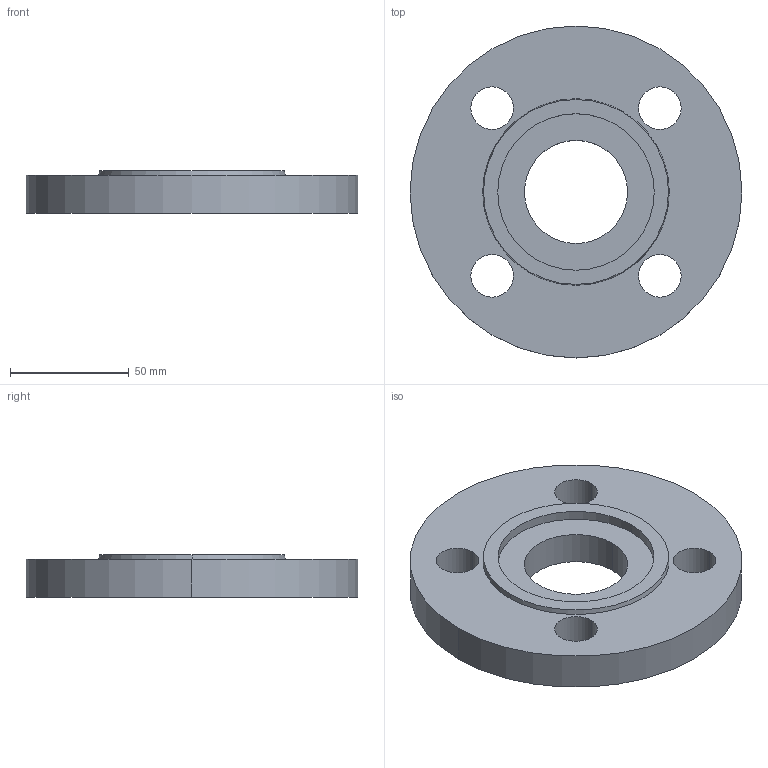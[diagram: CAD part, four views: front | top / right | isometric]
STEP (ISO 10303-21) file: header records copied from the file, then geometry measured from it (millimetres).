
FILE_DESCRIPTION (( 'STEP AP214' ), '1' );
FILE_NAME ('PN40 DN32 Type 01 - Type F Face.STEP', '2018-12-30T00:09:14', ( '' ), ( '' ), 'SwSTEP 2.0', 'SolidWorks 2019', '' );
FILE_SCHEMA (( 'AUTOMOTIVE_DESIGN' ));
Length unit declared in the file: millimetre
Products named in the file (1): PN40 DN32 Type 01 - Type F Face
Bounding box: 140 x 140 x 18 mm (x, y, z)
Volume: 205167.1 mm3; surface area: 39591.5 mm2
Topology: 1 solids, 1 shells, 20 faces, 48 edges, 32 vertices
Faces by surface type: cylinder 14, plane 4, cone 2
Entity records: 658 total; most frequent: DIRECTION 122, CARTESIAN_POINT 101, ORIENTED_EDGE 96, AXIS2_PLACEMENT_3D 53, EDGE_CURVE 48, VERTEX_POINT 32, EDGE_LOOP 32, CIRCLE 32
